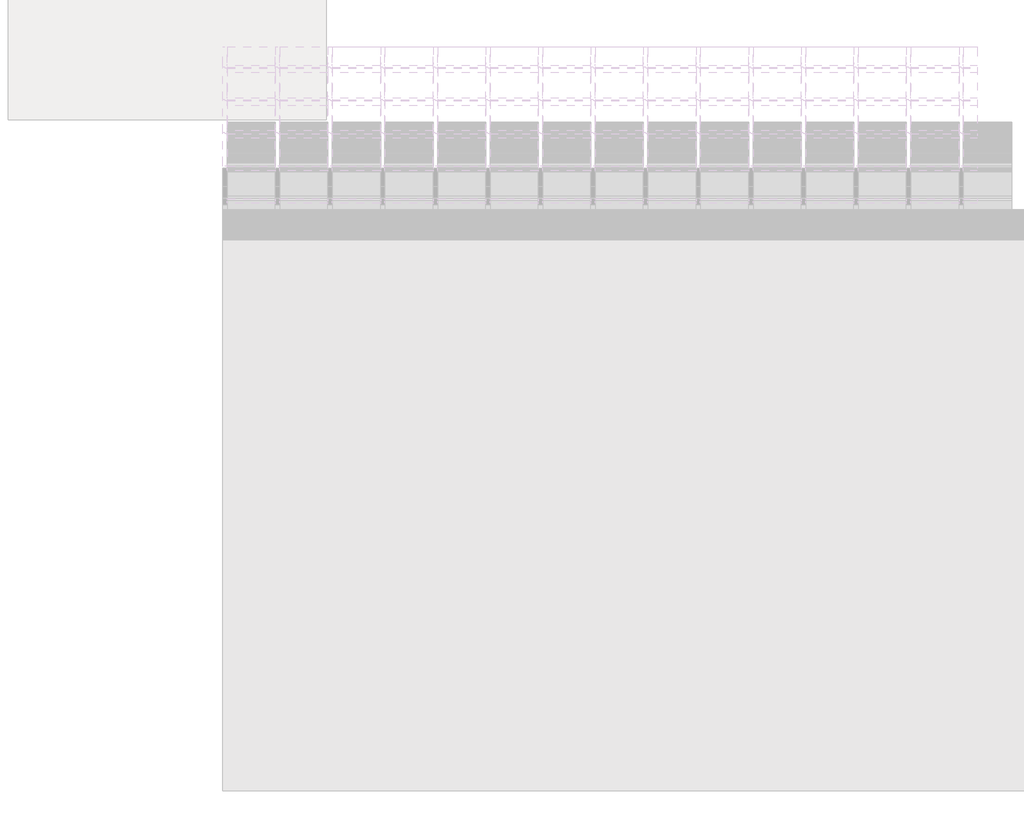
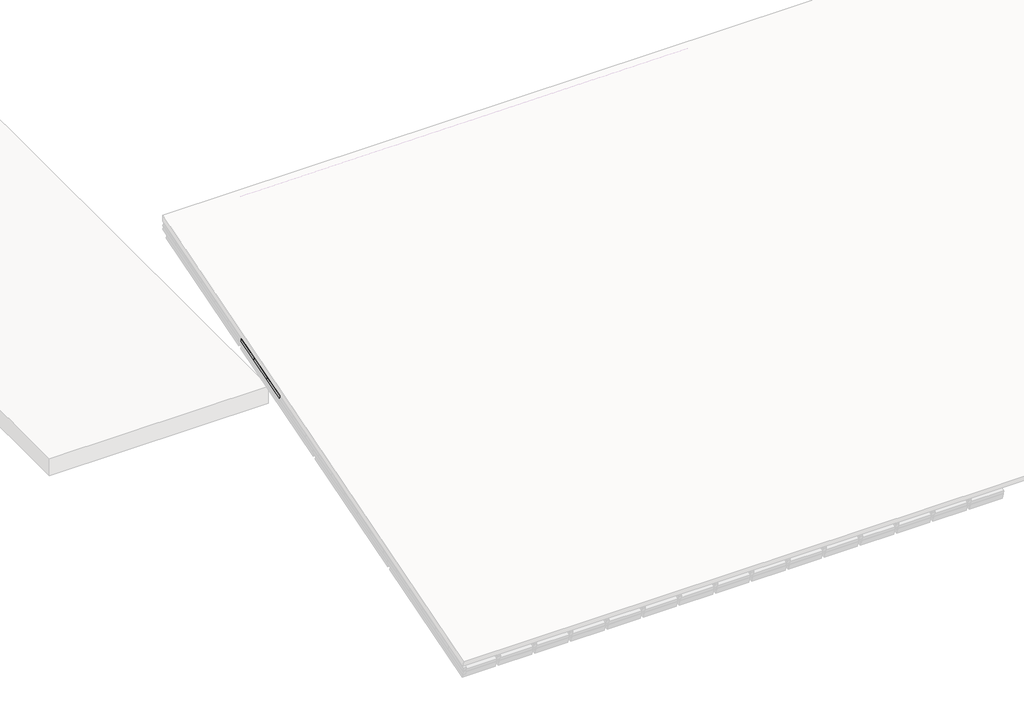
# One storey, part 11 of 57: 89 members, 35 plates.
"""IFC4 building model written with IfcOpenShell, lengths in millimetres."""

from ifc_helpers import new_model, si_unit, origin, place, context, project, spatial, transform, mapped, element, save
from components import rectangular_mullion_59984080, rectangular_mullion_2d2423ea, rectangular_mullion_caibro_e4384bba, rectangular_mullion_caibro_22b168a6, rectangular_mullion_caibro_9bd7bc61, empty_system_panel_vazio_178faf58, empty_system_panel_vazio_2c78850d

model = new_model("IFC4")

# Units and contexts
model_context = context("Model", 3, world=origin())
ifc_project = project(units=[si_unit("LENGTHUNIT", "METRE", prefix="MILLI")], contexts=[model_context])

# Site, building, storey
site = spatial("IfcSite", under=ifc_project)
building = spatial("IfcBuilding", under=site)
storey = spatial("IfcBuildingStorey", under=building, Name="Nível 2", Elevation=4100.0)

# Members
placement = place(None, origin())
rectangular_mullion_shape = rectangular_mullion_59984080(model_context)
element("IfcMember", 1, ObjectType="Rectangular Mullion : Ripa", at=placement, inside=storey, context=model_context, shape_type="MappedRepresentation", body=[
    mapped(rectangular_mullion_shape, transform((5359.0091907, 10013.4695628, 4154.0900474), x_axis=(0.0, 0.9578262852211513, 0.2873478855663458), y_axis=(0.0, 0.2873478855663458, -0.9578262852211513), z_axis=(-1.0, 0.0, 0.0))),
])
element("IfcMember", 2, ObjectType="Rectangular Mullion : Ripa", at=placement, inside=storey, context=model_context, shape_type="MappedRepresentation", body=[
    mapped(rectangular_mullion_shape, transform((5956.0639471, 10013.4695628, 4154.0900474), x_axis=(0.0, 0.9578262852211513, 0.2873478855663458), y_axis=(0.0, 0.2873478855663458, -0.9578262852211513), z_axis=(-1.0, 0.0, 0.0))),
])
element("IfcMember", 3, ObjectType="Rectangular Mullion : Ripa", at=placement, inside=storey, context=model_context, shape_type="MappedRepresentation", body=[
    mapped(rectangular_mullion_shape, transform((6553.1187036, 10013.4695628, 4154.0900474), x_axis=(0.0, 0.9578262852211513, 0.2873478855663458), y_axis=(0.0, 0.2873478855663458, -0.9578262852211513), z_axis=(-1.0, 0.0, 0.0))),
])
element("IfcMember", 4, ObjectType="Rectangular Mullion : Ripa", at=placement, inside=storey, context=model_context, shape_type="MappedRepresentation", body=[
    mapped(rectangular_mullion_shape, transform((7150.17346, 10013.4695628, 4154.0900474), x_axis=(0.0, 0.9578262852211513, 0.2873478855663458), y_axis=(0.0, 0.2873478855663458, -0.9578262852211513), z_axis=(-1.0, 0.0, 0.0))),
])
element("IfcMember", 5, ObjectType="Rectangular Mullion : Ripa", at=placement, inside=storey, context=model_context, shape_type="MappedRepresentation", body=[
    mapped(rectangular_mullion_shape, transform((7747.2282164, 10013.4695628, 4154.0900474), x_axis=(0.0, 0.9578262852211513, 0.2873478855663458), y_axis=(0.0, 0.2873478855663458, -0.9578262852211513), z_axis=(-1.0, 0.0, 0.0))),
])
element("IfcMember", 6, ObjectType="Rectangular Mullion : Ripa", at=placement, inside=storey, context=model_context, shape_type="MappedRepresentation", body=[
    mapped(rectangular_mullion_shape, transform((5359.0091907, 10383.6468214, 4265.143225), x_axis=(0.0, 0.9578262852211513, 0.2873478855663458), y_axis=(0.0, 0.2873478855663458, -0.9578262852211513), z_axis=(-1.0, 0.0, 0.0))),
])
element("IfcMember", 7, ObjectType="Rectangular Mullion : Ripa", at=placement, inside=storey, context=model_context, shape_type="MappedRepresentation", body=[
    mapped(rectangular_mullion_shape, transform((5956.0639471, 10383.6468214, 4265.143225), x_axis=(0.0, 0.9578262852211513, 0.2873478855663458), y_axis=(0.0, 0.2873478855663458, -0.9578262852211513), z_axis=(-1.0, 0.0, 0.0))),
])
element("IfcMember", 8, ObjectType="Rectangular Mullion : Ripa", at=placement, inside=storey, context=model_context, shape_type="MappedRepresentation", body=[
    mapped(rectangular_mullion_shape, transform((6553.1187036, 10383.6468214, 4265.143225), x_axis=(0.0, 0.9578262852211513, 0.2873478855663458), y_axis=(0.0, 0.2873478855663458, -0.9578262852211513), z_axis=(-1.0, 0.0, 0.0))),
])
element("IfcMember", 9, ObjectType="Rectangular Mullion : Ripa", at=placement, inside=storey, context=model_context, shape_type="MappedRepresentation", body=[
    mapped(rectangular_mullion_shape, transform((7150.17346, 10383.6468214, 4265.143225), x_axis=(0.0, 0.9578262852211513, 0.2873478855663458), y_axis=(0.0, 0.2873478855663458, -0.9578262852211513), z_axis=(-1.0, 0.0, 0.0))),
])
element("IfcMember", 10, ObjectType="Rectangular Mullion : Ripa", at=placement, inside=storey, context=model_context, shape_type="MappedRepresentation", body=[
    mapped(rectangular_mullion_shape, transform((7747.2282164, 10383.6468214, 4265.143225), x_axis=(0.0, 0.9578262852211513, 0.2873478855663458), y_axis=(0.0, 0.2873478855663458, -0.9578262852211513), z_axis=(-1.0, 0.0, 0.0))),
])
element("IfcMember", 11, ObjectType="Rectangular Mullion : Ripa", at=placement, inside=storey, context=model_context, shape_type="MappedRepresentation", body=[
    mapped(rectangular_mullion_shape, transform((5359.0091907, 10753.8240801, 4376.1964026), x_axis=(0.0, 0.9578262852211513, 0.2873478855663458), y_axis=(0.0, 0.2873478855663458, -0.9578262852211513), z_axis=(-1.0, 0.0, 0.0))),
])
element("IfcMember", 12, ObjectType="Rectangular Mullion : Ripa", at=placement, inside=storey, context=model_context, shape_type="MappedRepresentation", body=[
    mapped(rectangular_mullion_shape, transform((5956.0639471, 10753.8240801, 4376.1964026), x_axis=(0.0, 0.9578262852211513, 0.2873478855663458), y_axis=(0.0, 0.2873478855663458, -0.9578262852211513), z_axis=(-1.0, 0.0, 0.0))),
])
element("IfcMember", 13, ObjectType="Rectangular Mullion : Ripa", at=placement, inside=storey, context=model_context, shape_type="MappedRepresentation", body=[
    mapped(rectangular_mullion_shape, transform((6553.1187036, 10753.8240801, 4376.1964026), x_axis=(0.0, 0.9578262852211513, 0.2873478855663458), y_axis=(0.0, 0.2873478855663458, -0.9578262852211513), z_axis=(-1.0, 0.0, 0.0))),
])
element("IfcMember", 14, ObjectType="Rectangular Mullion : Ripa", at=placement, inside=storey, context=model_context, shape_type="MappedRepresentation", body=[
    mapped(rectangular_mullion_shape, transform((7150.17346, 10753.8240801, 4376.1964026), x_axis=(0.0, 0.9578262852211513, 0.2873478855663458), y_axis=(0.0, 0.2873478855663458, -0.9578262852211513), z_axis=(-1.0, 0.0, 0.0))),
])
element("IfcMember", 15, ObjectType="Rectangular Mullion : Ripa", at=placement, inside=storey, context=model_context, shape_type="MappedRepresentation", body=[
    mapped(rectangular_mullion_shape, transform((7747.2282164, 10753.8240801, 4376.1964026), x_axis=(0.0, 0.9578262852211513, 0.2873478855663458), y_axis=(0.0, 0.2873478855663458, -0.9578262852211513), z_axis=(-1.0, 0.0, 0.0))),
])
element("IfcMember", 16, ObjectType="Rectangular Mullion : Ripa", at=placement, inside=storey, context=model_context, shape_type="MappedRepresentation", body=[
    mapped(rectangular_mullion_shape, transform((4164.8996779, 11124.0013387, 4487.2495802), x_axis=(0.0, 0.9578262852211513, 0.2873478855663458), y_axis=(0.0, 0.2873478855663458, -0.9578262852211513), z_axis=(-1.0, 0.0, 0.0))),
])
element("IfcMember", 17, ObjectType="Rectangular Mullion : Ripa", at=placement, inside=storey, context=model_context, shape_type="MappedRepresentation", body=[
    mapped(rectangular_mullion_shape, transform((4761.9544343, 11124.0013387, 4487.2495802), x_axis=(0.0, 0.9578262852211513, 0.2873478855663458), y_axis=(0.0, 0.2873478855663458, -0.9578262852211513), z_axis=(-1.0, 0.0, 0.0))),
])
element("IfcMember", 18, ObjectType="Rectangular Mullion : Ripa", at=placement, inside=storey, context=model_context, shape_type="MappedRepresentation", body=[
    mapped(rectangular_mullion_shape, transform((5359.0091907, 11124.0013387, 4487.2495802), x_axis=(0.0, 0.9578262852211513, 0.2873478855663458), y_axis=(0.0, 0.2873478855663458, -0.9578262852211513), z_axis=(-1.0, 0.0, 0.0))),
])
element("IfcMember", 19, ObjectType="Rectangular Mullion : Ripa", at=placement, inside=storey, context=model_context, shape_type="MappedRepresentation", body=[
    mapped(rectangular_mullion_shape, transform((5956.0639471, 11124.0013387, 4487.2495802), x_axis=(0.0, 0.9578262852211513, 0.2873478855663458), y_axis=(0.0, 0.2873478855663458, -0.9578262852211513), z_axis=(-1.0, 0.0, 0.0))),
])
element("IfcMember", 20, ObjectType="Rectangular Mullion : Ripa", at=placement, inside=storey, context=model_context, shape_type="MappedRepresentation", body=[
    mapped(rectangular_mullion_shape, transform((6553.1187036, 11124.0013387, 4487.2495802), x_axis=(0.0, 0.9578262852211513, 0.2873478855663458), y_axis=(0.0, 0.2873478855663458, -0.9578262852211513), z_axis=(-1.0, 0.0, 0.0))),
])
element("IfcMember", 21, ObjectType="Rectangular Mullion : Ripa", at=placement, inside=storey, context=model_context, shape_type="MappedRepresentation", body=[
    mapped(rectangular_mullion_shape, transform((7150.17346, 11124.0013387, 4487.2495802), x_axis=(0.0, 0.9578262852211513, 0.2873478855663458), y_axis=(0.0, 0.2873478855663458, -0.9578262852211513), z_axis=(-1.0, 0.0, 0.0))),
])
element("IfcMember", 22, ObjectType="Rectangular Mullion : Ripa", at=placement, inside=storey, context=model_context, shape_type="MappedRepresentation", body=[
    mapped(rectangular_mullion_shape, transform((7747.2282164, 11124.0013387, 4487.2495802), x_axis=(0.0, 0.9578262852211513, 0.2873478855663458), y_axis=(0.0, 0.2873478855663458, -0.9578262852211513), z_axis=(-1.0, 0.0, 0.0))),
])
element("IfcMember", 23, ObjectType="Rectangular Mullion : Ripa", at=placement, inside=storey, context=model_context, shape_type="MappedRepresentation", body=[
    mapped(rectangular_mullion_shape, transform((4164.8996779, 11494.1785974, 4598.3027578), x_axis=(0.0, 0.9578262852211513, 0.2873478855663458), y_axis=(0.0, 0.2873478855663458, -0.9578262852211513), z_axis=(-1.0, 0.0, 0.0))),
])
element("IfcMember", 24, ObjectType="Rectangular Mullion : Ripa", at=placement, inside=storey, context=model_context, shape_type="MappedRepresentation", body=[
    mapped(rectangular_mullion_shape, transform((4761.9544343, 11494.1785974, 4598.3027578), x_axis=(0.0, 0.9578262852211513, 0.2873478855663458), y_axis=(0.0, 0.2873478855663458, -0.9578262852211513), z_axis=(-1.0, 0.0, 0.0))),
])
element("IfcMember", 25, ObjectType="Rectangular Mullion : Ripa", at=placement, inside=storey, context=model_context, shape_type="MappedRepresentation", body=[
    mapped(rectangular_mullion_shape, transform((5359.0091907, 11494.1785974, 4598.3027578), x_axis=(0.0, 0.9578262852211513, 0.2873478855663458), y_axis=(0.0, 0.2873478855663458, -0.9578262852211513), z_axis=(-1.0, 0.0, 0.0))),
])
element("IfcMember", 26, ObjectType="Rectangular Mullion : Ripa", at=placement, inside=storey, context=model_context, shape_type="MappedRepresentation", body=[
    mapped(rectangular_mullion_shape, transform((5956.0639471, 11494.1785974, 4598.3027578), x_axis=(0.0, 0.9578262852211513, 0.2873478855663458), y_axis=(0.0, 0.2873478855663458, -0.9578262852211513), z_axis=(-1.0, 0.0, 0.0))),
])
element("IfcMember", 27, ObjectType="Rectangular Mullion : Ripa", at=placement, inside=storey, context=model_context, shape_type="MappedRepresentation", body=[
    mapped(rectangular_mullion_shape, transform((6553.1187036, 11494.1785974, 4598.3027578), x_axis=(0.0, 0.9578262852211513, 0.2873478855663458), y_axis=(0.0, 0.2873478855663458, -0.9578262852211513), z_axis=(-1.0, 0.0, 0.0))),
])
element("IfcMember", 28, ObjectType="Rectangular Mullion : Ripa", at=placement, inside=storey, context=model_context, shape_type="MappedRepresentation", body=[
    mapped(rectangular_mullion_shape, transform((7150.17346, 11494.1785974, 4598.3027578), x_axis=(0.0, 0.9578262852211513, 0.2873478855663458), y_axis=(0.0, 0.2873478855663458, -0.9578262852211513), z_axis=(-1.0, 0.0, 0.0))),
])
element("IfcMember", 29, ObjectType="Rectangular Mullion : Ripa", at=placement, inside=storey, context=model_context, shape_type="MappedRepresentation", body=[
    mapped(rectangular_mullion_shape, transform((7747.2282164, 11494.1785974, 4598.3027578), x_axis=(0.0, 0.9578262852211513, 0.2873478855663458), y_axis=(0.0, 0.2873478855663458, -0.9578262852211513), z_axis=(-1.0, 0.0, 0.0))),
])
element("IfcMember", 30, ObjectType="Rectangular Mullion : Ripa", at=placement, inside=storey, context=model_context, shape_type="MappedRepresentation", body=[
    mapped(rectangular_mullion_shape, transform((4164.8996779, 11864.3558561, 4709.3559354), x_axis=(0.0, 0.9578262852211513, 0.2873478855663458), y_axis=(0.0, 0.2873478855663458, -0.9578262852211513), z_axis=(-1.0, 0.0, 0.0))),
])
element("IfcMember", 31, ObjectType="Rectangular Mullion : Ripa", at=placement, inside=storey, context=model_context, shape_type="MappedRepresentation", body=[
    mapped(rectangular_mullion_shape, transform((4761.9544343, 11864.3558561, 4709.3559354), x_axis=(0.0, 0.9578262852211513, 0.2873478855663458), y_axis=(0.0, 0.2873478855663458, -0.9578262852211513), z_axis=(-1.0, 0.0, 0.0))),
])
element("IfcMember", 32, ObjectType="Rectangular Mullion : Ripa", at=placement, inside=storey, context=model_context, shape_type="MappedRepresentation", body=[
    mapped(rectangular_mullion_shape, transform((5359.0091907, 11864.3558561, 4709.3559354), x_axis=(0.0, 0.9578262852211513, 0.2873478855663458), y_axis=(0.0, 0.2873478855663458, -0.9578262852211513), z_axis=(-1.0, 0.0, 0.0))),
])
element("IfcMember", 33, ObjectType="Rectangular Mullion : Ripa", at=placement, inside=storey, context=model_context, shape_type="MappedRepresentation", body=[
    mapped(rectangular_mullion_shape, transform((5956.0639471, 11864.3558561, 4709.3559354), x_axis=(0.0, 0.9578262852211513, 0.2873478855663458), y_axis=(0.0, 0.2873478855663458, -0.9578262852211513), z_axis=(-1.0, 0.0, 0.0))),
])
element("IfcMember", 34, ObjectType="Rectangular Mullion : Ripa", at=placement, inside=storey, context=model_context, shape_type="MappedRepresentation", body=[
    mapped(rectangular_mullion_shape, transform((6553.1187036, 11864.3558561, 4709.3559354), x_axis=(0.0, 0.9578262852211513, 0.2873478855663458), y_axis=(0.0, 0.2873478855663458, -0.9578262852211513), z_axis=(-1.0, 0.0, 0.0))),
])
element("IfcMember", 35, ObjectType="Rectangular Mullion : Ripa", at=placement, inside=storey, context=model_context, shape_type="MappedRepresentation", body=[
    mapped(rectangular_mullion_shape, transform((7150.17346, 11864.3558561, 4709.3559354), x_axis=(0.0, 0.9578262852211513, 0.2873478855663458), y_axis=(0.0, 0.2873478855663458, -0.9578262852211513), z_axis=(-1.0, 0.0, 0.0))),
])
element("IfcMember", 36, ObjectType="Rectangular Mullion : Ripa", at=placement, inside=storey, context=model_context, shape_type="MappedRepresentation", body=[
    mapped(rectangular_mullion_shape, transform((7747.2282164, 11864.3558561, 4709.3559354), x_axis=(0.0, 0.9578262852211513, 0.2873478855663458), y_axis=(0.0, 0.2873478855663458, -0.9578262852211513), z_axis=(-1.0, 0.0, 0.0))),
])
rectangular_mullion_2_shape = rectangular_mullion_2d2423ea(model_context)
element("IfcMember", 37, ObjectType="Rectangular Mullion : Terça", at=placement, inside=storey, context=model_context, shape_type="MappedRepresentation", body=[
    mapped(rectangular_mullion_2_shape, transform((4164.8996779, 11285.144311, 4472.9506328), x_axis=(0.0, 0.9578262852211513, 0.2873478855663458), y_axis=(0.0, 0.2873478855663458, -0.9578262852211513), z_axis=(-1.0, 0.0, 0.0))),
])
element("IfcMember", 38, ObjectType="Rectangular Mullion : Terça", at=placement, inside=storey, context=model_context, shape_type="MappedRepresentation", body=[
    mapped(rectangular_mullion_2_shape, transform((4761.9544343, 11285.144311, 4472.9506328), x_axis=(0.0, 0.9578262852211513, 0.2873478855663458), y_axis=(0.0, 0.2873478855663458, -0.9578262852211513), z_axis=(-1.0, 0.0, 0.0))),
])
element("IfcMember", 39, ObjectType="Rectangular Mullion : Terça", at=placement, inside=storey, context=model_context, shape_type="MappedRepresentation", body=[
    mapped(rectangular_mullion_2_shape, transform((5359.0091907, 11285.144311, 4472.9506328), x_axis=(0.0, 0.9578262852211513, 0.2873478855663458), y_axis=(0.0, 0.2873478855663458, -0.9578262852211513), z_axis=(-1.0, 0.0, 0.0))),
])
element("IfcMember", 40, ObjectType="Rectangular Mullion : Terça", at=placement, inside=storey, context=model_context, shape_type="MappedRepresentation", body=[
    mapped(rectangular_mullion_2_shape, transform((5956.0639471, 11285.144311, 4472.9506328), x_axis=(0.0, 0.9578262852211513, 0.2873478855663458), y_axis=(0.0, 0.2873478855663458, -0.9578262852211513), z_axis=(-1.0, 0.0, 0.0))),
])
element("IfcMember", 41, ObjectType="Rectangular Mullion : Terça", at=placement, inside=storey, context=model_context, shape_type="MappedRepresentation", body=[
    mapped(rectangular_mullion_2_shape, transform((6553.1187036, 11285.144311, 4472.9506328), x_axis=(0.0, 0.9578262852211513, 0.2873478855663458), y_axis=(0.0, 0.2873478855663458, -0.9578262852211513), z_axis=(-1.0, 0.0, 0.0))),
])
element("IfcMember", 42, ObjectType="Rectangular Mullion : Terça", at=placement, inside=storey, context=model_context, shape_type="MappedRepresentation", body=[
    mapped(rectangular_mullion_2_shape, transform((7150.17346, 11285.144311, 4472.9506328), x_axis=(0.0, 0.9578262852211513, 0.2873478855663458), y_axis=(0.0, 0.2873478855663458, -0.9578262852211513), z_axis=(-1.0, 0.0, 0.0))),
])
element("IfcMember", 43, ObjectType="Rectangular Mullion : Terça", at=placement, inside=storey, context=model_context, shape_type="MappedRepresentation", body=[
    mapped(rectangular_mullion_2_shape, transform((7747.2282164, 11285.144311, 4472.9506328), x_axis=(0.0, 0.9578262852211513, 0.2873478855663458), y_axis=(0.0, 0.2873478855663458, -0.9578262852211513), z_axis=(-1.0, 0.0, 0.0))),
])
rectangular_mullion_caibro_shape = rectangular_mullion_caibro_e4384bba(model_context)
element("IfcMember", 44, ObjectType="Rectangular Mullion : Caibro", at=placement, inside=storey, context=model_context, shape_type="MappedRepresentation", body=[
    mapped(rectangular_mullion_caibro_shape, transform((4139.8996779, 11124.0013387, 4487.2495802), x_axis=(1.0, 0.0, 0.0), y_axis=(0.0, 0.2873478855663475, -0.9578262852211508), z_axis=(0.0, 0.9578262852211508, 0.2873478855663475))),
])
element("IfcMember", 45, ObjectType="Rectangular Mullion : Caibro", at=placement, inside=storey, context=model_context, shape_type="MappedRepresentation", body=[
    mapped(rectangular_mullion_caibro_shape, transform((4139.8996779, 11494.1785974, 4598.3027578), x_axis=(1.0, 0.0, 0.0), y_axis=(0.0, 0.28734788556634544, -0.9578262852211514), z_axis=(0.0, 0.9578262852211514, 0.28734788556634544))),
])
element("IfcMember", 46, ObjectType="Rectangular Mullion : Caibro", at=placement, inside=storey, context=model_context, shape_type="MappedRepresentation", body=[
    mapped(rectangular_mullion_caibro_shape, transform((4139.8996779, 11864.3558561, 4709.3559354), x_axis=(1.0, 0.0, 0.0), y_axis=(0.0, 0.28734788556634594, -0.9578262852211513), z_axis=(0.0, 0.9578262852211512, 0.2873478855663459))),
])
element("IfcMember", 47, ObjectType="Rectangular Mullion : Caibro", at=placement, inside=storey, context=model_context, shape_type="MappedRepresentation", body=[
    mapped(rectangular_mullion_caibro_shape, transform((4736.9544343, 11124.0013387, 4487.2495802), x_axis=(1.0, 0.0, 0.0), y_axis=(0.0, 0.2873478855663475, -0.9578262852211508), z_axis=(0.0, 0.9578262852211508, 0.2873478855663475))),
])
element("IfcMember", 48, ObjectType="Rectangular Mullion : Caibro", at=placement, inside=storey, context=model_context, shape_type="MappedRepresentation", body=[
    mapped(rectangular_mullion_caibro_shape, transform((4736.9544343, 11494.1785974, 4598.3027578), x_axis=(1.0, 0.0, 0.0), y_axis=(0.0, 0.28734788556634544, -0.9578262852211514), z_axis=(0.0, 0.9578262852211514, 0.28734788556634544))),
])
element("IfcMember", 49, ObjectType="Rectangular Mullion : Caibro", at=placement, inside=storey, context=model_context, shape_type="MappedRepresentation", body=[
    mapped(rectangular_mullion_caibro_shape, transform((4736.9544343, 11864.3558561, 4709.3559354), x_axis=(1.0, 0.0, 0.0), y_axis=(0.0, 0.28734788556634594, -0.9578262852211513), z_axis=(0.0, 0.9578262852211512, 0.2873478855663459))),
])
element("IfcMember", 50, ObjectType="Rectangular Mullion : Caibro", at=placement, inside=storey, context=model_context, shape_type="MappedRepresentation", body=[
    mapped(rectangular_mullion_caibro_shape, transform((5334.0091907, 10013.4695628, 4154.0900474), x_axis=(1.0, 0.0, 0.0), y_axis=(0.0, 0.28734788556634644, -0.9578262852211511), z_axis=(0.0, 0.957826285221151, 0.2873478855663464))),
])
element("IfcMember", 51, ObjectType="Rectangular Mullion : Caibro", at=placement, inside=storey, context=model_context, shape_type="MappedRepresentation", body=[
    mapped(rectangular_mullion_caibro_shape, transform((5334.0091907, 10383.6468214, 4265.143225), x_axis=(1.0, 0.0, 0.0), y_axis=(0.0, 0.28734788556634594, -0.9578262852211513), z_axis=(0.0, 0.9578262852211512, 0.2873478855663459))),
])
element("IfcMember", 52, ObjectType="Rectangular Mullion : Caibro", at=placement, inside=storey, context=model_context, shape_type="MappedRepresentation", body=[
    mapped(rectangular_mullion_caibro_shape, transform((5334.0091907, 10753.8240801, 4376.1964026), x_axis=(1.0, 0.0, 0.0), y_axis=(0.0, 0.28734788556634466, -0.9578262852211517), z_axis=(0.0, 0.9578262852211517, 0.28734788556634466))),
])
element("IfcMember", 53, ObjectType="Rectangular Mullion : Caibro", at=placement, inside=storey, context=model_context, shape_type="MappedRepresentation", body=[
    mapped(rectangular_mullion_caibro_shape, transform((5334.0091907, 11124.0013387, 4487.2495802), x_axis=(1.0, 0.0, 0.0), y_axis=(0.0, 0.2873478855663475, -0.9578262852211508), z_axis=(0.0, 0.9578262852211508, 0.2873478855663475))),
])
element("IfcMember", 54, ObjectType="Rectangular Mullion : Caibro", at=placement, inside=storey, context=model_context, shape_type="MappedRepresentation", body=[
    mapped(rectangular_mullion_caibro_shape, transform((5334.0091907, 11494.1785974, 4598.3027578), x_axis=(1.0, 0.0, 0.0), y_axis=(0.0, 0.28734788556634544, -0.9578262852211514), z_axis=(0.0, 0.9578262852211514, 0.28734788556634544))),
])
element("IfcMember", 55, ObjectType="Rectangular Mullion : Caibro", at=placement, inside=storey, context=model_context, shape_type="MappedRepresentation", body=[
    mapped(rectangular_mullion_caibro_shape, transform((5334.0091907, 11864.3558561, 4709.3559354), x_axis=(1.0, 0.0, 0.0), y_axis=(0.0, 0.28734788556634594, -0.9578262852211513), z_axis=(0.0, 0.9578262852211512, 0.2873478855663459))),
])
element("IfcMember", 56, ObjectType="Rectangular Mullion : Caibro", at=placement, inside=storey, context=model_context, shape_type="MappedRepresentation", body=[
    mapped(rectangular_mullion_caibro_shape, transform((5931.0639471, 10013.4695628, 4154.0900474), x_axis=(1.0, 0.0, 0.0), y_axis=(0.0, 0.28734788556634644, -0.9578262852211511), z_axis=(0.0, 0.957826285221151, 0.2873478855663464))),
])
element("IfcMember", 57, ObjectType="Rectangular Mullion : Caibro", at=placement, inside=storey, context=model_context, shape_type="MappedRepresentation", body=[
    mapped(rectangular_mullion_caibro_shape, transform((5931.0639471, 10383.6468214, 4265.143225), x_axis=(1.0, 0.0, 0.0), y_axis=(0.0, 0.28734788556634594, -0.9578262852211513), z_axis=(0.0, 0.9578262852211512, 0.2873478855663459))),
])
element("IfcMember", 58, ObjectType="Rectangular Mullion : Caibro", at=placement, inside=storey, context=model_context, shape_type="MappedRepresentation", body=[
    mapped(rectangular_mullion_caibro_shape, transform((5931.0639471, 10753.8240801, 4376.1964026), x_axis=(1.0, 0.0, 0.0), y_axis=(0.0, 0.28734788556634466, -0.9578262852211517), z_axis=(0.0, 0.9578262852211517, 0.28734788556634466))),
])
element("IfcMember", 59, ObjectType="Rectangular Mullion : Caibro", at=placement, inside=storey, context=model_context, shape_type="MappedRepresentation", body=[
    mapped(rectangular_mullion_caibro_shape, transform((5931.0639471, 11124.0013387, 4487.2495802), x_axis=(1.0, 0.0, 0.0), y_axis=(0.0, 0.2873478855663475, -0.9578262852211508), z_axis=(0.0, 0.9578262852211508, 0.2873478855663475))),
])
element("IfcMember", 60, ObjectType="Rectangular Mullion : Caibro", at=placement, inside=storey, context=model_context, shape_type="MappedRepresentation", body=[
    mapped(rectangular_mullion_caibro_shape, transform((5931.0639471, 11494.1785974, 4598.3027578), x_axis=(1.0, 0.0, 0.0), y_axis=(0.0, 0.28734788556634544, -0.9578262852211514), z_axis=(0.0, 0.9578262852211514, 0.28734788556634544))),
])
element("IfcMember", 61, ObjectType="Rectangular Mullion : Caibro", at=placement, inside=storey, context=model_context, shape_type="MappedRepresentation", body=[
    mapped(rectangular_mullion_caibro_shape, transform((5931.0639471, 11864.3558561, 4709.3559354), x_axis=(1.0, 0.0, 0.0), y_axis=(0.0, 0.28734788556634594, -0.9578262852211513), z_axis=(0.0, 0.9578262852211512, 0.2873478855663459))),
])
element("IfcMember", 62, ObjectType="Rectangular Mullion : Caibro", at=placement, inside=storey, context=model_context, shape_type="MappedRepresentation", body=[
    mapped(rectangular_mullion_caibro_shape, transform((6528.1187036, 10013.4695628, 4154.0900474), x_axis=(1.0, 0.0, 0.0), y_axis=(0.0, 0.28734788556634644, -0.9578262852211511), z_axis=(0.0, 0.957826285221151, 0.2873478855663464))),
])
element("IfcMember", 63, ObjectType="Rectangular Mullion : Caibro", at=placement, inside=storey, context=model_context, shape_type="MappedRepresentation", body=[
    mapped(rectangular_mullion_caibro_shape, transform((6528.1187036, 10383.6468214, 4265.143225), x_axis=(1.0, 0.0, 0.0), y_axis=(0.0, 0.28734788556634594, -0.9578262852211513), z_axis=(0.0, 0.9578262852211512, 0.2873478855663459))),
])
element("IfcMember", 64, ObjectType="Rectangular Mullion : Caibro", at=placement, inside=storey, context=model_context, shape_type="MappedRepresentation", body=[
    mapped(rectangular_mullion_caibro_shape, transform((6528.1187036, 10753.8240801, 4376.1964026), x_axis=(1.0, 0.0, 0.0), y_axis=(0.0, 0.28734788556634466, -0.9578262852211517), z_axis=(0.0, 0.9578262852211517, 0.28734788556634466))),
])
element("IfcMember", 65, ObjectType="Rectangular Mullion : Caibro", at=placement, inside=storey, context=model_context, shape_type="MappedRepresentation", body=[
    mapped(rectangular_mullion_caibro_shape, transform((6528.1187036, 11124.0013387, 4487.2495802), x_axis=(1.0, 0.0, 0.0), y_axis=(0.0, 0.2873478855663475, -0.9578262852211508), z_axis=(0.0, 0.9578262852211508, 0.2873478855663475))),
])
element("IfcMember", 66, ObjectType="Rectangular Mullion : Caibro", at=placement, inside=storey, context=model_context, shape_type="MappedRepresentation", body=[
    mapped(rectangular_mullion_caibro_shape, transform((6528.1187036, 11494.1785974, 4598.3027578), x_axis=(1.0, 0.0, 0.0), y_axis=(0.0, 0.28734788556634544, -0.9578262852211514), z_axis=(0.0, 0.9578262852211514, 0.28734788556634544))),
])
element("IfcMember", 67, ObjectType="Rectangular Mullion : Caibro", at=placement, inside=storey, context=model_context, shape_type="MappedRepresentation", body=[
    mapped(rectangular_mullion_caibro_shape, transform((6528.1187036, 11864.3558561, 4709.3559354), x_axis=(1.0, 0.0, 0.0), y_axis=(0.0, 0.28734788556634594, -0.9578262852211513), z_axis=(0.0, 0.9578262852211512, 0.2873478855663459))),
])
element("IfcMember", 68, ObjectType="Rectangular Mullion : Caibro", at=placement, inside=storey, context=model_context, shape_type="MappedRepresentation", body=[
    mapped(rectangular_mullion_caibro_shape, transform((7125.17346, 10013.4695628, 4154.0900474), x_axis=(1.0, 0.0, 0.0), y_axis=(0.0, 0.28734788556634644, -0.9578262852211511), z_axis=(0.0, 0.957826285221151, 0.2873478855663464))),
])
element("IfcMember", 69, ObjectType="Rectangular Mullion : Caibro", at=placement, inside=storey, context=model_context, shape_type="MappedRepresentation", body=[
    mapped(rectangular_mullion_caibro_shape, transform((7125.17346, 10383.6468214, 4265.143225), x_axis=(1.0, 0.0, 0.0), y_axis=(0.0, 0.28734788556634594, -0.9578262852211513), z_axis=(0.0, 0.9578262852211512, 0.2873478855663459))),
])
element("IfcMember", 70, ObjectType="Rectangular Mullion : Caibro", at=placement, inside=storey, context=model_context, shape_type="MappedRepresentation", body=[
    mapped(rectangular_mullion_caibro_shape, transform((7125.17346, 10753.8240801, 4376.1964026), x_axis=(1.0, 0.0, 0.0), y_axis=(0.0, 0.28734788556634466, -0.9578262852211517), z_axis=(0.0, 0.9578262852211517, 0.28734788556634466))),
])
element("IfcMember", 71, ObjectType="Rectangular Mullion : Caibro", at=placement, inside=storey, context=model_context, shape_type="MappedRepresentation", body=[
    mapped(rectangular_mullion_caibro_shape, transform((7125.17346, 11124.0013387, 4487.2495802), x_axis=(1.0, 0.0, 0.0), y_axis=(0.0, 0.2873478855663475, -0.9578262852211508), z_axis=(0.0, 0.9578262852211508, 0.2873478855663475))),
])
element("IfcMember", 72, ObjectType="Rectangular Mullion : Caibro", at=placement, inside=storey, context=model_context, shape_type="MappedRepresentation", body=[
    mapped(rectangular_mullion_caibro_shape, transform((7125.17346, 11494.1785974, 4598.3027578), x_axis=(1.0, 0.0, 0.0), y_axis=(0.0, 0.28734788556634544, -0.9578262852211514), z_axis=(0.0, 0.9578262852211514, 0.28734788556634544))),
])
element("IfcMember", 73, ObjectType="Rectangular Mullion : Caibro", at=placement, inside=storey, context=model_context, shape_type="MappedRepresentation", body=[
    mapped(rectangular_mullion_caibro_shape, transform((7125.17346, 11864.3558561, 4709.3559354), x_axis=(1.0, 0.0, 0.0), y_axis=(0.0, 0.28734788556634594, -0.9578262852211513), z_axis=(0.0, 0.9578262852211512, 0.2873478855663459))),
])
element("IfcMember", 74, ObjectType="Rectangular Mullion : Caibro", at=placement, inside=storey, context=model_context, shape_type="MappedRepresentation", body=[
    mapped(rectangular_mullion_caibro_shape, transform((7722.2282164, 10013.4695628, 4154.0900474), x_axis=(1.0, 0.0, 0.0), y_axis=(0.0, 0.287347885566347, -0.9578262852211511), z_axis=(0.0, 0.9578262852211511, 0.287347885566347))),
])
element("IfcMember", 75, ObjectType="Rectangular Mullion : Caibro", at=placement, inside=storey, context=model_context, shape_type="MappedRepresentation", body=[
    mapped(rectangular_mullion_caibro_shape, transform((7722.2282164, 10383.6468214, 4265.143225), x_axis=(1.0, 0.0, 0.0), y_axis=(0.0, 0.28734788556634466, -0.9578262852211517), z_axis=(0.0, 0.9578262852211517, 0.28734788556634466))),
])
element("IfcMember", 76, ObjectType="Rectangular Mullion : Caibro", at=placement, inside=storey, context=model_context, shape_type="MappedRepresentation", body=[
    mapped(rectangular_mullion_caibro_shape, transform((7722.2282164, 10753.8240801, 4376.1964026), x_axis=(1.0, 0.0, 0.0), y_axis=(0.0, 0.28734788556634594, -0.9578262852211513), z_axis=(0.0, 0.9578262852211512, 0.2873478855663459))),
])
element("IfcMember", 77, ObjectType="Rectangular Mullion : Caibro", at=placement, inside=storey, context=model_context, shape_type="MappedRepresentation", body=[
    mapped(rectangular_mullion_caibro_shape, transform((7722.2282164, 11124.0013387, 4487.2495802), x_axis=(1.0, 0.0, 0.0), y_axis=(0.0, 0.28734788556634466, -0.9578262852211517), z_axis=(0.0, 0.9578262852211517, 0.28734788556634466))),
])
element("IfcMember", 78, ObjectType="Rectangular Mullion : Caibro", at=placement, inside=storey, context=model_context, shape_type="MappedRepresentation", body=[
    mapped(rectangular_mullion_caibro_shape, transform((7722.2282164, 11494.1785974, 4598.3027578), x_axis=(1.0, 0.0, 0.0), y_axis=(0.0, 0.287347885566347, -0.9578262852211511), z_axis=(0.0, 0.9578262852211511, 0.287347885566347))),
])
element("IfcMember", 79, ObjectType="Rectangular Mullion : Caibro", at=placement, inside=storey, context=model_context, shape_type="MappedRepresentation", body=[
    mapped(rectangular_mullion_caibro_shape, transform((7722.2282164, 11864.3558561, 4709.3559354), x_axis=(1.0, 0.0, 0.0), y_axis=(0.0, 0.28734788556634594, -0.9578262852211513), z_axis=(0.0, 0.9578262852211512, 0.2873478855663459))),
])
rectangular_mullion_caibro_2_shape = rectangular_mullion_caibro_22b168a6(model_context)
element("IfcMember", 80, ObjectType="Rectangular Mullion : Caibro", at=placement, inside=storey, context=model_context, shape_type="MappedRepresentation", body=[
    mapped(rectangular_mullion_caibro_2_shape, transform((1726.6806519, 12234.5331147, 4820.409113), x_axis=(-1.0, 0.0, 0.0), y_axis=(0.0, 0.2873478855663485, -0.9578262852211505), z_axis=(0.0, -0.9578262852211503, -0.28734788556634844))),
])
element("IfcMember", 81, ObjectType="Rectangular Mullion : Caibro", at=placement, inside=storey, context=model_context, shape_type="MappedRepresentation", body=[
    mapped(rectangular_mullion_caibro_2_shape, transform((1726.6806519, 12604.7103734, 4931.4622906), x_axis=(-1.0, 0.0, 0.0), y_axis=(0.0, 0.2873478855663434, -0.957826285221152), z_axis=(0.0, -0.957826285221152, -0.2873478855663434))),
])
element("IfcMember", 82, ObjectType="Rectangular Mullion : Caibro", at=placement, inside=storey, context=model_context, shape_type="MappedRepresentation", body=[
    mapped(rectangular_mullion_caibro_2_shape, transform((1726.6806519, 12974.8876321, 5042.5154682), x_axis=(-1.0, 0.0, 0.0), y_axis=(0.0, 0.28734788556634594, -0.9578262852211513), z_axis=(0.0, -0.9578262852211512, -0.2873478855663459))),
])
rectangular_mullion_caibro_3_shape = rectangular_mullion_caibro_9bd7bc61(model_context)
element("IfcMember", 83, ObjectType="Rectangular Mullion : Caibro", at=placement, inside=storey, context=model_context, shape_type="MappedRepresentation", body=[
    mapped(rectangular_mullion_caibro_3_shape, transform((4139.8996779, 11285.144311, 4472.9506328), x_axis=(1.0, 0.0, 0.0), y_axis=(0.0, 0.28734788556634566, -0.9578262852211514), z_axis=(0.0, 0.9578262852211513, 0.2873478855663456))),
])
element("IfcMember", 84, ObjectType="Rectangular Mullion : Caibro", at=placement, inside=storey, context=model_context, shape_type="MappedRepresentation", body=[
    mapped(rectangular_mullion_caibro_3_shape, transform((4736.9544343, 11285.144311, 4472.9506328), x_axis=(1.0, 0.0, 0.0), y_axis=(0.0, 0.28734788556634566, -0.9578262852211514), z_axis=(0.0, 0.9578262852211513, 0.2873478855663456))),
])
element("IfcMember", 85, ObjectType="Rectangular Mullion : Caibro", at=placement, inside=storey, context=model_context, shape_type="MappedRepresentation", body=[
    mapped(rectangular_mullion_caibro_3_shape, transform((5334.0091907, 11285.144311, 4472.9506328), x_axis=(1.0, 0.0, 0.0), y_axis=(0.0, 0.28734788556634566, -0.9578262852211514), z_axis=(0.0, 0.9578262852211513, 0.2873478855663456))),
])
element("IfcMember", 86, ObjectType="Rectangular Mullion : Caibro", at=placement, inside=storey, context=model_context, shape_type="MappedRepresentation", body=[
    mapped(rectangular_mullion_caibro_3_shape, transform((5931.0639471, 11285.144311, 4472.9506328), x_axis=(1.0, 0.0, 0.0), y_axis=(0.0, 0.28734788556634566, -0.9578262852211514), z_axis=(0.0, 0.9578262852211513, 0.2873478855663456))),
])
element("IfcMember", 87, ObjectType="Rectangular Mullion : Caibro", at=placement, inside=storey, context=model_context, shape_type="MappedRepresentation", body=[
    mapped(rectangular_mullion_caibro_3_shape, transform((6528.1187036, 11285.144311, 4472.9506328), x_axis=(1.0, 0.0, 0.0), y_axis=(0.0, 0.28734788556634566, -0.9578262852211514), z_axis=(0.0, 0.9578262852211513, 0.2873478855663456))),
])
element("IfcMember", 88, ObjectType="Rectangular Mullion : Caibro", at=placement, inside=storey, context=model_context, shape_type="MappedRepresentation", body=[
    mapped(rectangular_mullion_caibro_3_shape, transform((7125.17346, 11285.144311, 4472.9506328), x_axis=(1.0, 0.0, 0.0), y_axis=(0.0, 0.28734788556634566, -0.9578262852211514), z_axis=(0.0, 0.9578262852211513, 0.2873478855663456))),
])
element("IfcMember", 89, ObjectType="Rectangular Mullion : Caibro", at=placement, inside=storey, context=model_context, shape_type="MappedRepresentation", body=[
    mapped(rectangular_mullion_caibro_3_shape, transform((7722.2282164, 11285.144311, 4472.9506328), x_axis=(1.0, 0.0, 0.0), y_axis=(0.0, 0.28734788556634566, -0.9578262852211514), z_axis=(0.0, 0.9578262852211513, 0.2873478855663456))),
])

# Plates
empty_system_panel_vazio_shape = empty_system_panel_vazio_178faf58(model_context)
element("IfcPlate", 90, ObjectType="Empty System Panel : Vazio", at=placement, inside=storey, context=model_context, shape_type="MappedRepresentation", body=[
    mapped(empty_system_panel_vazio_shape, transform((6229.5913253, 10013.4695628, 4154.0900474), x_axis=(1.0, 0.0, 0.0), y_axis=(0.0, 0.2873478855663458, -0.9578262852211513), z_axis=(0.0, 0.9578262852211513, 0.2873478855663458))),
])
element("IfcPlate", 91, ObjectType="Empty System Panel : Vazio", at=placement, inside=storey, context=model_context, shape_type="MappedRepresentation", body=[
    mapped(empty_system_panel_vazio_shape, transform((6826.6460818, 10013.4695628, 4154.0900474), x_axis=(1.0, 0.0, 0.0), y_axis=(0.0, 0.2873478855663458, -0.9578262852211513), z_axis=(0.0, 0.9578262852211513, 0.2873478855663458))),
])
element("IfcPlate", 92, ObjectType="Empty System Panel : Vazio", at=placement, inside=storey, context=model_context, shape_type="MappedRepresentation", body=[
    mapped(empty_system_panel_vazio_shape, transform((7423.7008382, 10013.4695628, 4154.0900474), x_axis=(1.0, 0.0, 0.0), y_axis=(0.0, 0.2873478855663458, -0.9578262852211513), z_axis=(0.0, 0.9578262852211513, 0.2873478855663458))),
])
element("IfcPlate", 93, ObjectType="Empty System Panel : Vazio", at=placement, inside=storey, context=model_context, shape_type="MappedRepresentation", body=[
    mapped(empty_system_panel_vazio_shape, transform((6229.5913253, 10383.6468214, 4265.143225), x_axis=(1.0, 0.0, 0.0), y_axis=(0.0, 0.2873478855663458, -0.9578262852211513), z_axis=(0.0, 0.9578262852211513, 0.2873478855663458))),
])
element("IfcPlate", 94, ObjectType="Empty System Panel : Vazio", at=placement, inside=storey, context=model_context, shape_type="MappedRepresentation", body=[
    mapped(empty_system_panel_vazio_shape, transform((6826.6460818, 10383.6468214, 4265.143225), x_axis=(1.0, 0.0, 0.0), y_axis=(0.0, 0.2873478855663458, -0.9578262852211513), z_axis=(0.0, 0.9578262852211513, 0.2873478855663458))),
])
element("IfcPlate", 95, ObjectType="Empty System Panel : Vazio", at=placement, inside=storey, context=model_context, shape_type="MappedRepresentation", body=[
    mapped(empty_system_panel_vazio_shape, transform((7423.7008382, 10383.6468214, 4265.143225), x_axis=(1.0, 0.0, 0.0), y_axis=(0.0, 0.2873478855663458, -0.9578262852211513), z_axis=(0.0, 0.9578262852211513, 0.2873478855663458))),
])
element("IfcPlate", 96, ObjectType="Empty System Panel : Vazio", at=placement, inside=storey, context=model_context, shape_type="MappedRepresentation", body=[
    mapped(empty_system_panel_vazio_shape, transform((5035.4818125, 10753.8240801, 4376.1964026), x_axis=(1.0, 0.0, 0.0), y_axis=(0.0, 0.2873478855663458, -0.9578262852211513), z_axis=(0.0, 0.9578262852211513, 0.2873478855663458))),
])
element("IfcPlate", 97, ObjectType="Empty System Panel : Vazio", at=placement, inside=storey, context=model_context, shape_type="MappedRepresentation", body=[
    mapped(empty_system_panel_vazio_shape, transform((5632.5365689, 10753.8240801, 4376.1964026), x_axis=(1.0, 0.0, 0.0), y_axis=(0.0, 0.2873478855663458, -0.9578262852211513), z_axis=(0.0, 0.9578262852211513, 0.2873478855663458))),
])
element("IfcPlate", 98, ObjectType="Empty System Panel : Vazio", at=placement, inside=storey, context=model_context, shape_type="MappedRepresentation", body=[
    mapped(empty_system_panel_vazio_shape, transform((6229.5913253, 10753.8240801, 4376.1964026), x_axis=(1.0, 0.0, 0.0), y_axis=(0.0, 0.2873478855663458, -0.9578262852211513), z_axis=(0.0, 0.9578262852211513, 0.2873478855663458))),
])
element("IfcPlate", 99, ObjectType="Empty System Panel : Vazio", at=placement, inside=storey, context=model_context, shape_type="MappedRepresentation", body=[
    mapped(empty_system_panel_vazio_shape, transform((6826.6460818, 10753.8240801, 4376.1964026), x_axis=(1.0, 0.0, 0.0), y_axis=(0.0, 0.2873478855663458, -0.9578262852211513), z_axis=(0.0, 0.9578262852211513, 0.2873478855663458))),
])
element("IfcPlate", 100, ObjectType="Empty System Panel : Vazio", at=placement, inside=storey, context=model_context, shape_type="MappedRepresentation", body=[
    mapped(empty_system_panel_vazio_shape, transform((7423.7008382, 10753.8240801, 4376.1964026), x_axis=(1.0, 0.0, 0.0), y_axis=(0.0, 0.2873478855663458, -0.9578262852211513), z_axis=(0.0, 0.9578262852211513, 0.2873478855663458))),
])
element("IfcPlate", 101, ObjectType="Empty System Panel : Vazio", at=placement, inside=storey, context=model_context, shape_type="MappedRepresentation", body=[
    mapped(empty_system_panel_vazio_shape, transform((4438.4270561, 11124.0013387, 4487.2495802), x_axis=(1.0, 0.0, 0.0), y_axis=(0.0, 0.2873478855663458, -0.9578262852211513), z_axis=(0.0, 0.9578262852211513, 0.2873478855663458))),
])
element("IfcPlate", 102, ObjectType="Empty System Panel : Vazio", at=placement, inside=storey, context=model_context, shape_type="MappedRepresentation", body=[
    mapped(empty_system_panel_vazio_shape, transform((5035.4818125, 11124.0013387, 4487.2495802), x_axis=(1.0, 0.0, 0.0), y_axis=(0.0, 0.2873478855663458, -0.9578262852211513), z_axis=(0.0, 0.9578262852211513, 0.2873478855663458))),
])
element("IfcPlate", 103, ObjectType="Empty System Panel : Vazio", at=placement, inside=storey, context=model_context, shape_type="MappedRepresentation", body=[
    mapped(empty_system_panel_vazio_shape, transform((5632.5365689, 11124.0013387, 4487.2495802), x_axis=(1.0, 0.0, 0.0), y_axis=(0.0, 0.2873478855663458, -0.9578262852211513), z_axis=(0.0, 0.9578262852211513, 0.2873478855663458))),
])
element("IfcPlate", 104, ObjectType="Empty System Panel : Vazio", at=placement, inside=storey, context=model_context, shape_type="MappedRepresentation", body=[
    mapped(empty_system_panel_vazio_shape, transform((6229.5913253, 11124.0013387, 4487.2495802), x_axis=(1.0, 0.0, 0.0), y_axis=(0.0, 0.2873478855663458, -0.9578262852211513), z_axis=(0.0, 0.9578262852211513, 0.2873478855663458))),
])
element("IfcPlate", 105, ObjectType="Empty System Panel : Vazio", at=placement, inside=storey, context=model_context, shape_type="MappedRepresentation", body=[
    mapped(empty_system_panel_vazio_shape, transform((6826.6460818, 11124.0013387, 4487.2495802), x_axis=(1.0, 0.0, 0.0), y_axis=(0.0, 0.2873478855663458, -0.9578262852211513), z_axis=(0.0, 0.9578262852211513, 0.2873478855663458))),
])
element("IfcPlate", 106, ObjectType="Empty System Panel : Vazio", at=placement, inside=storey, context=model_context, shape_type="MappedRepresentation", body=[
    mapped(empty_system_panel_vazio_shape, transform((7423.7008382, 11124.0013387, 4487.2495802), x_axis=(1.0, 0.0, 0.0), y_axis=(0.0, 0.2873478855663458, -0.9578262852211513), z_axis=(0.0, 0.9578262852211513, 0.2873478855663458))),
])
element("IfcPlate", 107, ObjectType="Empty System Panel : Vazio", at=placement, inside=storey, context=model_context, shape_type="MappedRepresentation", body=[
    mapped(empty_system_panel_vazio_shape, transform((4438.4270561, 11494.1785974, 4598.3027578), x_axis=(1.0, 0.0, 0.0), y_axis=(0.0, 0.2873478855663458, -0.9578262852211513), z_axis=(0.0, 0.9578262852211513, 0.2873478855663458))),
])
element("IfcPlate", 108, ObjectType="Empty System Panel : Vazio", at=placement, inside=storey, context=model_context, shape_type="MappedRepresentation", body=[
    mapped(empty_system_panel_vazio_shape, transform((5035.4818125, 11494.1785974, 4598.3027578), x_axis=(1.0, 0.0, 0.0), y_axis=(0.0, 0.2873478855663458, -0.9578262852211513), z_axis=(0.0, 0.9578262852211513, 0.2873478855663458))),
])
element("IfcPlate", 109, ObjectType="Empty System Panel : Vazio", at=placement, inside=storey, context=model_context, shape_type="MappedRepresentation", body=[
    mapped(empty_system_panel_vazio_shape, transform((5632.5365689, 11494.1785974, 4598.3027578), x_axis=(1.0, 0.0, 0.0), y_axis=(0.0, 0.2873478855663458, -0.9578262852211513), z_axis=(0.0, 0.9578262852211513, 0.2873478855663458))),
])
element("IfcPlate", 110, ObjectType="Empty System Panel : Vazio", at=placement, inside=storey, context=model_context, shape_type="MappedRepresentation", body=[
    mapped(empty_system_panel_vazio_shape, transform((6229.5913253, 11494.1785974, 4598.3027578), x_axis=(1.0, 0.0, 0.0), y_axis=(0.0, 0.2873478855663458, -0.9578262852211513), z_axis=(0.0, 0.9578262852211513, 0.2873478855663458))),
])
element("IfcPlate", 111, ObjectType="Empty System Panel : Vazio", at=placement, inside=storey, context=model_context, shape_type="MappedRepresentation", body=[
    mapped(empty_system_panel_vazio_shape, transform((6826.6460818, 11494.1785974, 4598.3027578), x_axis=(1.0, 0.0, 0.0), y_axis=(0.0, 0.2873478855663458, -0.9578262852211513), z_axis=(0.0, 0.9578262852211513, 0.2873478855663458))),
])
element("IfcPlate", 112, ObjectType="Empty System Panel : Vazio", at=placement, inside=storey, context=model_context, shape_type="MappedRepresentation", body=[
    mapped(empty_system_panel_vazio_shape, transform((7423.7008382, 11494.1785974, 4598.3027578), x_axis=(1.0, 0.0, 0.0), y_axis=(0.0, 0.2873478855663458, -0.9578262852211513), z_axis=(0.0, 0.9578262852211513, 0.2873478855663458))),
])
element("IfcPlate", 113, ObjectType="Empty System Panel : Vazio", at=placement, inside=storey, context=model_context, shape_type="MappedRepresentation", body=[
    mapped(empty_system_panel_vazio_shape, transform((4438.4270561, 11864.3558561, 4709.3559354), x_axis=(1.0, 0.0, 0.0), y_axis=(0.0, 0.2873478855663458, -0.9578262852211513), z_axis=(0.0, 0.9578262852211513, 0.2873478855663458))),
])
element("IfcPlate", 114, ObjectType="Empty System Panel : Vazio", at=placement, inside=storey, context=model_context, shape_type="MappedRepresentation", body=[
    mapped(empty_system_panel_vazio_shape, transform((5035.4818125, 11864.3558561, 4709.3559354), x_axis=(1.0, 0.0, 0.0), y_axis=(0.0, 0.2873478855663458, -0.9578262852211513), z_axis=(0.0, 0.9578262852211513, 0.2873478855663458))),
])
element("IfcPlate", 115, ObjectType="Empty System Panel : Vazio", at=placement, inside=storey, context=model_context, shape_type="MappedRepresentation", body=[
    mapped(empty_system_panel_vazio_shape, transform((5632.5365689, 11864.3558561, 4709.3559354), x_axis=(1.0, 0.0, 0.0), y_axis=(0.0, 0.2873478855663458, -0.9578262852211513), z_axis=(0.0, 0.9578262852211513, 0.2873478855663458))),
])
element("IfcPlate", 116, ObjectType="Empty System Panel : Vazio", at=placement, inside=storey, context=model_context, shape_type="MappedRepresentation", body=[
    mapped(empty_system_panel_vazio_shape, transform((6229.5913253, 11864.3558561, 4709.3559354), x_axis=(1.0, 0.0, 0.0), y_axis=(0.0, 0.2873478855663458, -0.9578262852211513), z_axis=(0.0, 0.9578262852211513, 0.2873478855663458))),
])
element("IfcPlate", 117, ObjectType="Empty System Panel : Vazio", at=placement, inside=storey, context=model_context, shape_type="MappedRepresentation", body=[
    mapped(empty_system_panel_vazio_shape, transform((6826.6460818, 11864.3558561, 4709.3559354), x_axis=(1.0, 0.0, 0.0), y_axis=(0.0, 0.2873478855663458, -0.9578262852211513), z_axis=(0.0, 0.9578262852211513, 0.2873478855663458))),
])
element("IfcPlate", 118, ObjectType="Empty System Panel : Vazio", at=placement, inside=storey, context=model_context, shape_type="MappedRepresentation", body=[
    mapped(empty_system_panel_vazio_shape, transform((7423.7008382, 11864.3558561, 4709.3559354), x_axis=(1.0, 0.0, 0.0), y_axis=(0.0, 0.2873478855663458, -0.9578262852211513), z_axis=(0.0, 0.9578262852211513, 0.2873478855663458))),
])
empty_system_panel_vazio_2_shape = empty_system_panel_vazio_2c78850d(model_context)
element("IfcPlate", 119, ObjectType="Empty System Panel : Vazio", at=placement, inside=storey, context=model_context, shape_type="MappedRepresentation", body=[
    mapped(empty_system_panel_vazio_2_shape, transform((4438.4270561, 11313.8790995, 4481.5710693), x_axis=(1.0, 0.0, 0.0), y_axis=(0.0, 0.2873478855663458, -0.9578262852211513), z_axis=(0.0, 0.9578262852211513, 0.2873478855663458))),
])
element("IfcPlate", 120, ObjectType="Empty System Panel : Vazio", at=placement, inside=storey, context=model_context, shape_type="MappedRepresentation", body=[
    mapped(empty_system_panel_vazio_2_shape, transform((5035.4818125, 11313.8790995, 4481.5710693), x_axis=(1.0, 0.0, 0.0), y_axis=(0.0, 0.2873478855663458, -0.9578262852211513), z_axis=(0.0, 0.9578262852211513, 0.2873478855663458))),
])
element("IfcPlate", 121, ObjectType="Empty System Panel : Vazio", at=placement, inside=storey, context=model_context, shape_type="MappedRepresentation", body=[
    mapped(empty_system_panel_vazio_2_shape, transform((5632.5365689, 11313.8790995, 4481.5710693), x_axis=(1.0, 0.0, 0.0), y_axis=(0.0, 0.2873478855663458, -0.9578262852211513), z_axis=(0.0, 0.9578262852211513, 0.2873478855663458))),
])
element("IfcPlate", 122, ObjectType="Empty System Panel : Vazio", at=placement, inside=storey, context=model_context, shape_type="MappedRepresentation", body=[
    mapped(empty_system_panel_vazio_2_shape, transform((6229.5913253, 11313.8790995, 4481.5710693), x_axis=(1.0, 0.0, 0.0), y_axis=(0.0, 0.2873478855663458, -0.9578262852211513), z_axis=(0.0, 0.9578262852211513, 0.2873478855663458))),
])
element("IfcPlate", 123, ObjectType="Empty System Panel : Vazio", at=placement, inside=storey, context=model_context, shape_type="MappedRepresentation", body=[
    mapped(empty_system_panel_vazio_2_shape, transform((6826.6460818, 11313.8790995, 4481.5710693), x_axis=(1.0, 0.0, 0.0), y_axis=(0.0, 0.2873478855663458, -0.9578262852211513), z_axis=(0.0, 0.9578262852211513, 0.2873478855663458))),
])
element("IfcPlate", 124, ObjectType="Empty System Panel : Vazio", at=placement, inside=storey, context=model_context, shape_type="MappedRepresentation", body=[
    mapped(empty_system_panel_vazio_2_shape, transform((7423.7008382, 11313.8790995, 4481.5710693), x_axis=(1.0, 0.0, 0.0), y_axis=(0.0, 0.2873478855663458, -0.9578262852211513), z_axis=(0.0, 0.9578262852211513, 0.2873478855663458))),
])

save(model, "model.ifc")
